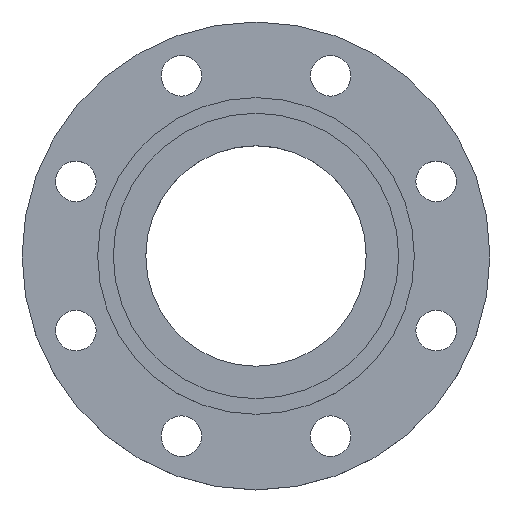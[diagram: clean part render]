
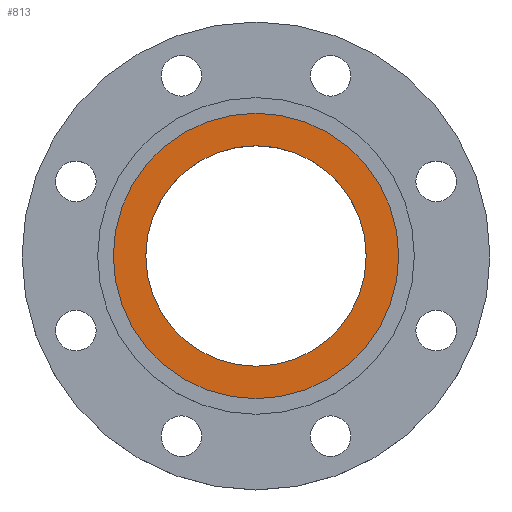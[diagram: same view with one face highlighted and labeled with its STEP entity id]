
A CAD part, top view. The second image highlights one B-rep face of the part: STEP entity #813.
In plain terms, the highlighted planar face has unit normal (0, 0, 1).
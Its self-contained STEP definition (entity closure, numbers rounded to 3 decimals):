
#50 = DIRECTION ( 'NONE',  ( 1., 0., 0. ) ) ;
#51 = DIRECTION ( 'NONE',  ( 0., 0., 1. ) ) ;
#53 = CARTESIAN_POINT ( 'NONE',  ( 0., 0., -5. ) ) ;
#66 = AXIS2_PLACEMENT_3D ( 'NONE', #110, #109, #107 ) ;
#68 = CIRCLE ( 'NONE', #66, 91.5 ) ;
#107 = DIRECTION ( 'NONE',  ( -1., 0., 0. ) ) ;
#109 = DIRECTION ( 'NONE',  ( 0., 0., -1. ) ) ;
#110 = CARTESIAN_POINT ( 'NONE',  ( 0., 0., -5. ) ) ;
#143 = CARTESIAN_POINT ( 'NONE',  ( 91.5, 0., -5. ) ) ;
#168 = AXIS2_PLACEMENT_3D ( 'NONE', #53, #51, #50 ) ;
#182 = CIRCLE ( 'NONE', #168, 70.67 ) ;
#235 = DIRECTION ( 'NONE',  ( 1., 0., 0. ) ) ;
#239 = DIRECTION ( 'NONE',  ( 0., 0., 1. ) ) ;
#243 = CARTESIAN_POINT ( 'NONE',  ( 0., 0., -5. ) ) ;
#280 = DIRECTION ( 'NONE',  ( 1., 0., 0. ) ) ;
#316 = CARTESIAN_POINT ( 'NONE',  ( 91.5, 0., -5. ) ) ;
#356 = CARTESIAN_POINT ( 'NONE',  ( 0., 0., -5. ) ) ;
#388 = DIRECTION ( 'NONE',  ( 0., 0., -1. ) ) ;
#404 = EDGE_CURVE ( 'NONE', #886, #464, #815, .T. ) ;
#417 = AXIS2_PLACEMENT_3D ( 'NONE', #243, #239, #235 ) ;
#449 = VERTEX_POINT ( 'NONE', #703 ) ;
#458 = AXIS2_PLACEMENT_3D ( 'NONE', #143, #946, #280 ) ;
#464 = VERTEX_POINT ( 'NONE', #316 ) ;
#505 = EDGE_LOOP ( 'NONE', ( #1005, #1007 ) ) ;
#533 = EDGE_LOOP ( 'NONE', ( #999, #1003 ) ) ;
#552 = EDGE_CURVE ( 'NONE', #449, #1076, #686, .T. ) ;
#670 = DIRECTION ( 'NONE',  ( -1., 0., 0. ) ) ;
#686 = CIRCLE ( 'NONE', #417, 70.67 ) ;
#703 = CARTESIAN_POINT ( 'NONE',  ( 70.67, 0., -5. ) ) ;
#736 = EDGE_CURVE ( 'NONE', #464, #886, #68, .T. ) ;
#755 = FACE_BOUND ( 'NONE', #533, .T. ) ;
#770 = EDGE_CURVE ( 'NONE', #1076, #449, #182, .T. ) ;
#786 = CARTESIAN_POINT ( 'NONE',  ( -91.5, 0., -5. ) ) ;
#793 = CARTESIAN_POINT ( 'NONE',  ( -70.67, 0., -5. ) ) ;
#797 = AXIS2_PLACEMENT_3D ( 'NONE', #356, #388, #670 ) ;
#813 = ADVANCED_FACE ( 'NONE', ( #755, #965 ), #816, .T. ) ;
#815 = CIRCLE ( 'NONE', #797, 91.5 ) ;
#816 = PLANE ( 'NONE',  #458 ) ;
#886 = VERTEX_POINT ( 'NONE', #786 ) ;
#946 = DIRECTION ( 'NONE',  ( 0., 0., 1. ) ) ;
#965 = FACE_OUTER_BOUND ( 'NONE', #505, .T. ) ;
#999 = ORIENTED_EDGE ( 'NONE', *, *, #552, .F. ) ;
#1003 = ORIENTED_EDGE ( 'NONE', *, *, #770, .F. ) ;
#1005 = ORIENTED_EDGE ( 'NONE', *, *, #404, .F. ) ;
#1007 = ORIENTED_EDGE ( 'NONE', *, *, #736, .F. ) ;
#1076 = VERTEX_POINT ( 'NONE', #793 ) ;
